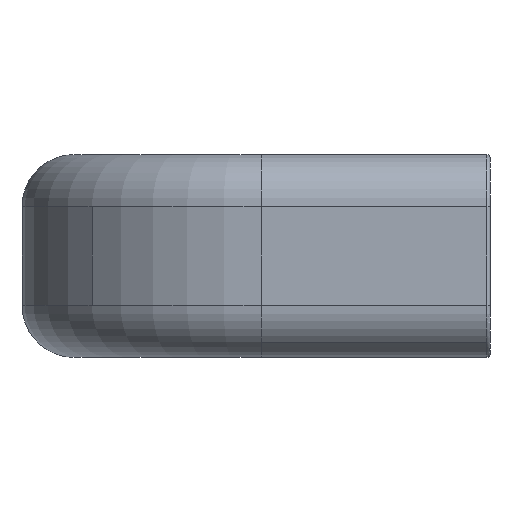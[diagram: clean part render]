
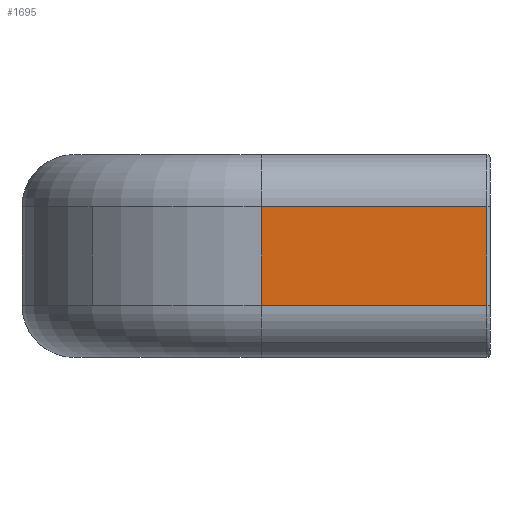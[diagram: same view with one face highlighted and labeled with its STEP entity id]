
A CAD part, left-side view. The second image highlights one B-rep face of the part: STEP entity #1695.
In plain terms, the highlighted planar face has unit normal (-1, 0, 0).
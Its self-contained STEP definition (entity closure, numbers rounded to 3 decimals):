
#341=CARTESIAN_POINT('',(-180.0,0.3,-4.5));
#342=VERTEX_POINT('',#341);
#350=CARTESIAN_POINT('',(-180.0,22.,-4.5));
#351=VERTEX_POINT('',#350);
#352=CARTESIAN_POINT('',(-180.0,22.,-4.5));
#353=DIRECTION('',(0.0,-1.0,0.0));
#354=VECTOR('',#353,21.7);
#355=LINE('',#352,#354);
#356=EDGE_CURVE('',#351,#342,#355,.T.);
#588=CARTESIAN_POINT('',(-180.0,22.,5.));
#589=VERTEX_POINT('',#588);
#590=CARTESIAN_POINT('',(-180.0,22.,-4.5));
#591=DIRECTION('',(0.0,0.0,1.0));
#592=VECTOR('',#591,9.5);
#593=LINE('',#590,#592);
#594=EDGE_CURVE('',#351,#589,#593,.T.);
#1672=CARTESIAN_POINT('',(-180.0,-0.785,5.475));
#1673=DIRECTION('',(1.0,0.0,0.0));
#1674=DIRECTION('',(0.0,0.0,-1.0));
#1675=AXIS2_PLACEMENT_3D('',#1672,#1673,#1674);
#1676=PLANE('',#1675);
#1677=ORIENTED_EDGE('',*,*,#356,.T.);
#1678=CARTESIAN_POINT('',(-180.0,0.3,5.));
#1679=VERTEX_POINT('',#1678);
#1680=CARTESIAN_POINT('',(-180.0,0.3,-4.5));
#1681=DIRECTION('',(0.0,0.0,1.0));
#1682=VECTOR('',#1681,9.5);
#1683=LINE('',#1680,#1682);
#1684=EDGE_CURVE('',#342,#1679,#1683,.T.);
#1685=ORIENTED_EDGE('',*,*,#1684,.T.);
#1686=CARTESIAN_POINT('',(-180.0,22.,5.));
#1687=DIRECTION('',(0.0,-1.0,0.0));
#1688=VECTOR('',#1687,21.7);
#1689=LINE('',#1686,#1688);
#1690=EDGE_CURVE('',#589,#1679,#1689,.T.);
#1691=ORIENTED_EDGE('',*,*,#1690,.F.);
#1692=ORIENTED_EDGE('',*,*,#594,.F.);
#1693=EDGE_LOOP('',(#1677,#1685,#1691,#1692));
#1694=FACE_OUTER_BOUND('',#1693,.T.);
#1695=ADVANCED_FACE('',(#1694),#1676,.F.);
